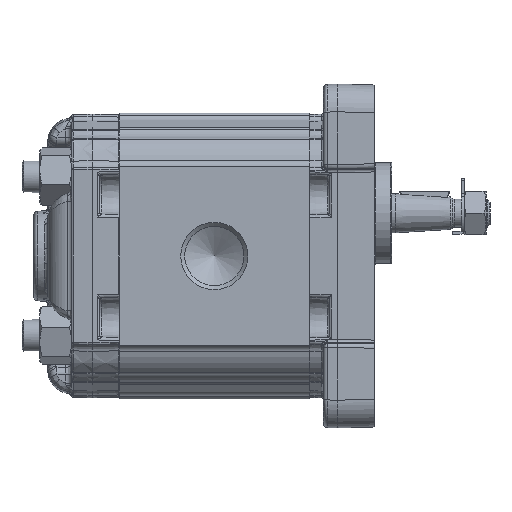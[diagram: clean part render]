
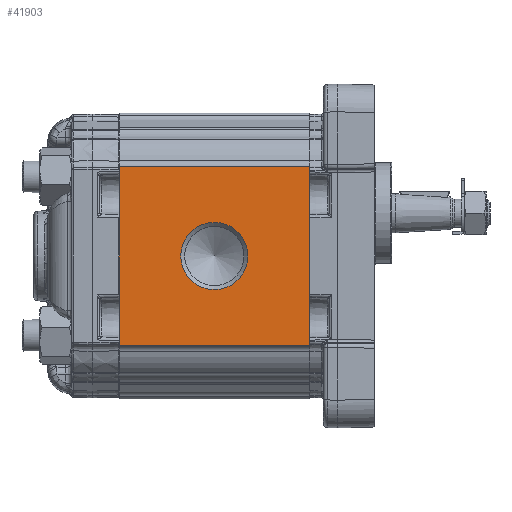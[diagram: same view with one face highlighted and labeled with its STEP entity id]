
A CAD part, left-side view. The second image highlights one B-rep face of the part: STEP entity #41903.
In plain terms, the highlighted planar face has unit normal (-1, 0, 0).
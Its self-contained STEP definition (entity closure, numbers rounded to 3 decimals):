
#4036=LINE('',#97229,#6137);
#4046=LINE('',#97330,#6147);
#4065=LINE('',#97378,#6166);
#4066=LINE('',#97380,#6167);
#6137=VECTOR('',#73522,1000.);
#6147=VECTOR('',#73614,1000.);
#6166=VECTOR('',#73669,1000.);
#6167=VECTOR('',#73672,1000.);
#7717=PLANE('',#65497);
#13385=ORIENTED_EDGE('',*,*,#23455,.F.);
#13386=ORIENTED_EDGE('',*,*,#23553,.T.);
#13387=ORIENTED_EDGE('',*,*,#23525,.T.);
#13388=ORIENTED_EDGE('',*,*,#23554,.T.);
#13389=ORIENTED_EDGE('',*,*,#23475,.F.);
#23455=EDGE_CURVE('',#28879,#28879,#32262,.F.);
#23475=EDGE_CURVE('',#28900,#28901,#4036,.T.);
#23525=EDGE_CURVE('',#28951,#28950,#4046,.T.);
#23553=EDGE_CURVE('',#28900,#28951,#4065,.T.);
#23554=EDGE_CURVE('',#28950,#28901,#4066,.F.);
#28879=VERTEX_POINT('',#97185);
#28900=VERTEX_POINT('',#97228);
#28901=VERTEX_POINT('',#97230);
#28950=VERTEX_POINT('',#97329);
#28951=VERTEX_POINT('',#97331);
#32262=CIRCLE('',#65401,8.475);
#34937=EDGE_LOOP('',(#13385));
#34938=EDGE_LOOP('',(#13386,#13387,#13388,#13389));
#38069=FACE_BOUND('',#34937,.T.);
#38070=FACE_BOUND('',#34938,.T.);
#41903=ADVANCED_FACE('',(#38069,#38070),#7717,.T.);
#65401=AXIS2_PLACEMENT_3D('',#97184,#73479,#73480);
#65497=AXIS2_PLACEMENT_3D('',#97407,#73715,#73716);
#73479=DIRECTION('',(1.,0.,0.));
#73480=DIRECTION('',(0.,0.,-1.));
#73522=DIRECTION('',(0.,0.,1.));
#73614=DIRECTION('',(0.,0.,1.));
#73669=DIRECTION('',(0.,-1.,0.));
#73672=DIRECTION('',(0.,-1.,0.));
#73715=DIRECTION('',(-1.,0.,0.));
#73716=DIRECTION('',(0.,0.,1.));
#97184=CARTESIAN_POINT('',(-33.,24.,0.));
#97185=CARTESIAN_POINT('',(-33.,24.,-8.475));
#97228=CARTESIAN_POINT('',(-33.,48.,-22.5));
#97229=CARTESIAN_POINT('',(-33.,48.,-21.711));
#97230=CARTESIAN_POINT('',(-33.,48.,22.5));
#97329=CARTESIAN_POINT('',(-33.,0.,22.5));
#97330=CARTESIAN_POINT('',(-33.,0.,-21.711));
#97331=CARTESIAN_POINT('',(-33.,0.,-22.5));
#97378=CARTESIAN_POINT('',(-33.,48.,-22.5));
#97380=CARTESIAN_POINT('',(-33.,48.,22.5));
#97407=CARTESIAN_POINT('',(-33.,127.15,48.138));
